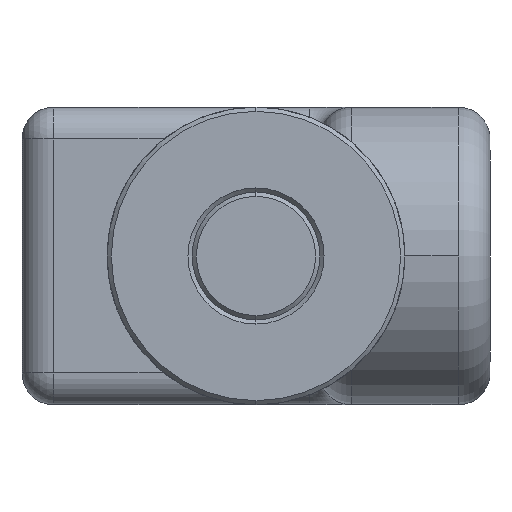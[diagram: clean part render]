
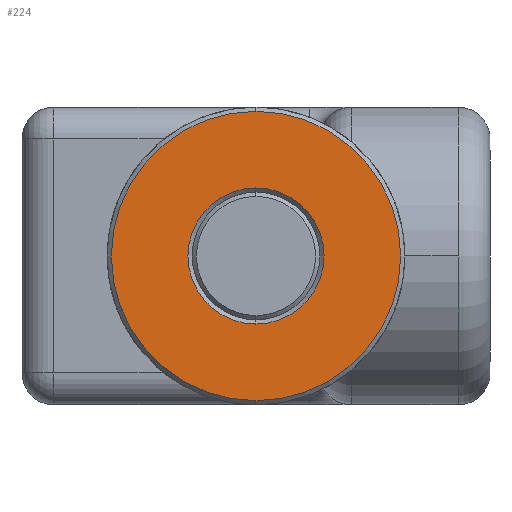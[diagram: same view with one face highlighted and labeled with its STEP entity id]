
A CAD part, front view. The second image highlights one B-rep face of the part: STEP entity #224.
In plain terms, the highlighted planar face has unit normal (0, -1, 0).
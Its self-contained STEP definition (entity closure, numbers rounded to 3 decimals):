
#224 = ADVANCED_FACE ( 'NONE', ( #8936, #11149 ), #9333, .F. ) ;
#452 = DIRECTION ( 'NONE',  ( 0., 1., 0. ) ) ;
#1139 = EDGE_CURVE ( 'NONE', #10261, #10393, #10398, .T. ) ;
#1331 = EDGE_LOOP ( 'NONE', ( #7329, #5664 ) ) ;
#1577 = CARTESIAN_POINT ( 'NONE',  ( -5.706, -8.676, 21. ) ) ;
#2159 = AXIS2_PLACEMENT_3D ( 'NONE', #1577, #10970, #3383 ) ;
#2555 = CARTESIAN_POINT ( 'NONE',  ( -5.706, -8.676, 24.2 ) ) ;
#3383 = DIRECTION ( 'NONE',  ( 0., 0., 1. ) ) ;
#3400 = EDGE_LOOP ( 'NONE', ( #11669, #4295 ) ) ;
#3708 = CARTESIAN_POINT ( 'NONE',  ( -5.706, -8.676, 21. ) ) ;
#3991 = AXIS2_PLACEMENT_3D ( 'NONE', #4388, #10967, #5329 ) ;
#4267 = DIRECTION ( 'NONE',  ( 0., 0., 1. ) ) ;
#4295 = ORIENTED_EDGE ( 'NONE', *, *, #8694, .T. ) ;
#4388 = CARTESIAN_POINT ( 'NONE',  ( -5.706, -8.676, 21. ) ) ;
#4477 = CIRCLE ( 'NONE', #10742, 6.8 ) ;
#4570 = EDGE_CURVE ( 'NONE', #5686, #7857, #4477, .T. ) ;
#4669 = DIRECTION ( 'NONE',  ( 0., 0., 1. ) ) ;
#5329 = DIRECTION ( 'NONE',  ( 0., 0., 1. ) ) ;
#5664 = ORIENTED_EDGE ( 'NONE', *, *, #1139, .T. ) ;
#5686 = VERTEX_POINT ( 'NONE', #8086 ) ;
#6145 = CARTESIAN_POINT ( 'NONE',  ( -5.706, -8.676, 21. ) ) ;
#6292 = CARTESIAN_POINT ( 'NONE',  ( -5.706, -8.676, 14.2 ) ) ;
#7099 = DIRECTION ( 'NONE',  ( 0., 0., 1. ) ) ;
#7329 = ORIENTED_EDGE ( 'NONE', *, *, #9291, .T. ) ;
#7516 = CIRCLE ( 'NONE', #7579, 3.2 ) ;
#7579 = AXIS2_PLACEMENT_3D ( 'NONE', #6145, #452, #7099 ) ;
#7857 = VERTEX_POINT ( 'NONE', #6292 ) ;
#8086 = CARTESIAN_POINT ( 'NONE',  ( -5.706, -8.676, 27.8 ) ) ;
#8694 = EDGE_CURVE ( 'NONE', #7857, #5686, #11211, .T. ) ;
#8936 = FACE_BOUND ( 'NONE', #1331, .T. ) ;
#9078 = AXIS2_PLACEMENT_3D ( 'NONE', #11809, #10851, #4267 ) ;
#9291 = EDGE_CURVE ( 'NONE', #10393, #10261, #7516, .T. ) ;
#9333 = PLANE ( 'NONE',  #2159 ) ;
#10261 = VERTEX_POINT ( 'NONE', #2555 ) ;
#10291 = DIRECTION ( 'NONE',  ( 0., -1., 0. ) ) ;
#10393 = VERTEX_POINT ( 'NONE', #12099 ) ;
#10398 = CIRCLE ( 'NONE', #9078, 3.2 ) ;
#10742 = AXIS2_PLACEMENT_3D ( 'NONE', #3708, #10291, #4669 ) ;
#10851 = DIRECTION ( 'NONE',  ( 0., 1., 0. ) ) ;
#10967 = DIRECTION ( 'NONE',  ( 0., -1., 0. ) ) ;
#10970 = DIRECTION ( 'NONE',  ( 0., 1., 0. ) ) ;
#11149 = FACE_OUTER_BOUND ( 'NONE', #3400, .T. ) ;
#11211 = CIRCLE ( 'NONE', #3991, 6.8 ) ;
#11669 = ORIENTED_EDGE ( 'NONE', *, *, #4570, .T. ) ;
#11809 = CARTESIAN_POINT ( 'NONE',  ( -5.706, -8.676, 21. ) ) ;
#12099 = CARTESIAN_POINT ( 'NONE',  ( -5.706, -8.676, 17.8 ) ) ;
